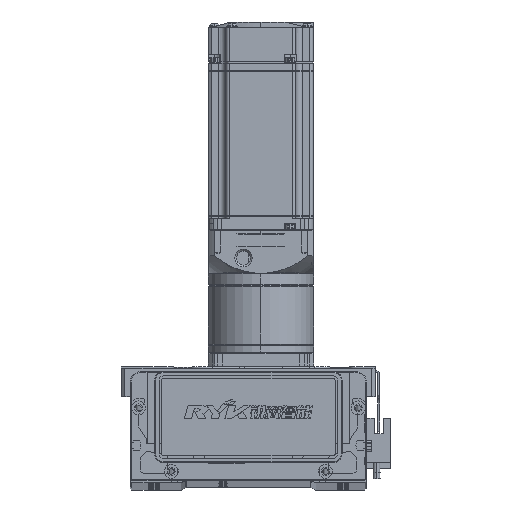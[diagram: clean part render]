
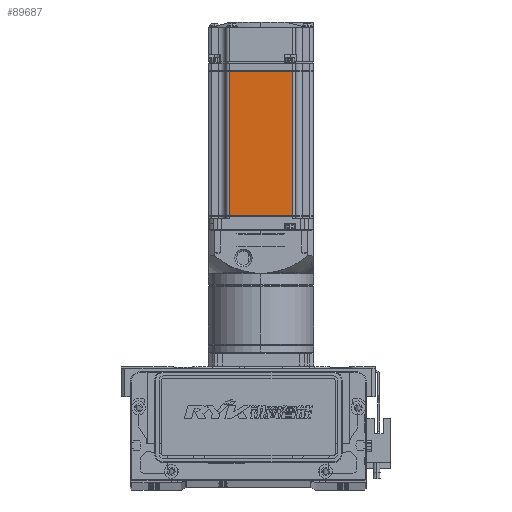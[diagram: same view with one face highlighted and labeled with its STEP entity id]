
A CAD part, top view. The second image highlights one B-rep face of the part: STEP entity #89687.
In plain terms, the highlighted planar face has unit normal (0, 0, 1).
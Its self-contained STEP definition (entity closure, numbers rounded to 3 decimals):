
#6834 = EDGE_CURVE ( 'NONE', #20379, #83787, #15484, .T. ) ;
#8708 = DIRECTION ( 'NONE',  ( 0., 0., 1. ) ) ;
#12101 = DIRECTION ( 'NONE',  ( 0., -1., 0. ) ) ;
#13990 = DIRECTION ( 'NONE',  ( -1., 0., 0. ) ) ;
#15005 = CARTESIAN_POINT ( 'NONE',  ( -7.75, 18., 30. ) ) ;
#15484 = LINE ( 'NONE', #59286, #73521 ) ;
#19992 = EDGE_CURVE ( 'NONE', #84872, #43032, #58618, .T. ) ;
#20379 = VERTEX_POINT ( 'NONE', #62480 ) ;
#21179 = CARTESIAN_POINT ( 'NONE',  ( -90.45, -18., 30. ) ) ;
#24965 = EDGE_CURVE ( 'NONE', #84872, #20379, #90856, .T. ) ;
#27780 = CARTESIAN_POINT ( 'NONE',  ( -7.75, 0., 30. ) ) ;
#28362 = VECTOR ( 'NONE', #12101, 1000. ) ;
#30838 = DIRECTION ( 'NONE',  ( 0., -1., 0. ) ) ;
#41805 = EDGE_LOOP ( 'NONE', ( #65752, #65803, #83795, #89518 ) ) ;
#43032 = VERTEX_POINT ( 'NONE', #53251 ) ;
#43377 = CARTESIAN_POINT ( 'NONE',  ( -6.5, -25., 30. ) ) ;
#53251 = CARTESIAN_POINT ( 'NONE',  ( -7.75, -18., 30. ) ) ;
#55692 = DIRECTION ( 'NONE',  ( -1., 0., 0. ) ) ;
#57395 = DIRECTION ( 'NONE',  ( 1., 0., 0. ) ) ;
#58618 = LINE ( 'NONE', #27780, #28362 ) ;
#59286 = CARTESIAN_POINT ( 'NONE',  ( -90.45, 0., 30. ) ) ;
#62480 = CARTESIAN_POINT ( 'NONE',  ( -90.45, 18., 30. ) ) ;
#63042 = CARTESIAN_POINT ( 'NONE',  ( -6.5, 18., 30. ) ) ;
#65752 = ORIENTED_EDGE ( 'NONE', *, *, #19992, .F. ) ;
#65803 = ORIENTED_EDGE ( 'NONE', *, *, #24965, .T. ) ;
#71458 = EDGE_CURVE ( 'NONE', #43032, #83787, #77475, .T. ) ;
#72943 = PLANE ( 'NONE',  #80982 ) ;
#73521 = VECTOR ( 'NONE', #30838, 1000. ) ;
#74139 = FACE_OUTER_BOUND ( 'NONE', #41805, .T. ) ;
#77475 = LINE ( 'NONE', #85230, #91964 ) ;
#80982 = AXIS2_PLACEMENT_3D ( 'NONE', #43377, #8708, #57395 ) ;
#83787 = VERTEX_POINT ( 'NONE', #21179 ) ;
#83795 = ORIENTED_EDGE ( 'NONE', *, *, #6834, .T. ) ;
#84118 = VECTOR ( 'NONE', #13990, 1000. ) ;
#84872 = VERTEX_POINT ( 'NONE', #15005 ) ;
#85230 = CARTESIAN_POINT ( 'NONE',  ( -6.5, -18., 30. ) ) ;
#89518 = ORIENTED_EDGE ( 'NONE', *, *, #71458, .F. ) ;
#89687 = ADVANCED_FACE ( 'NONE', ( #74139 ), #72943, .T. ) ;
#90856 = LINE ( 'NONE', #63042, #84118 ) ;
#91964 = VECTOR ( 'NONE', #55692, 1000. ) ;
